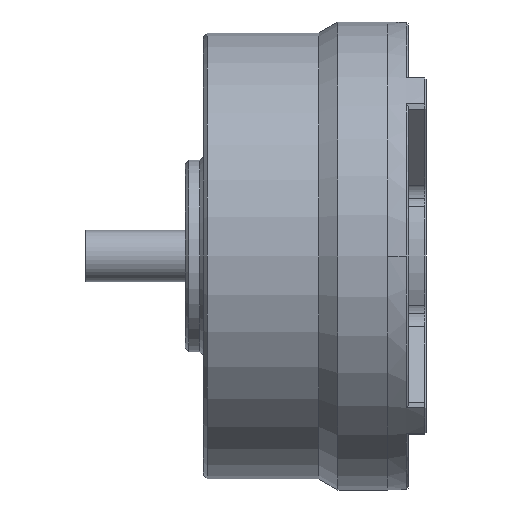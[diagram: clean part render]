
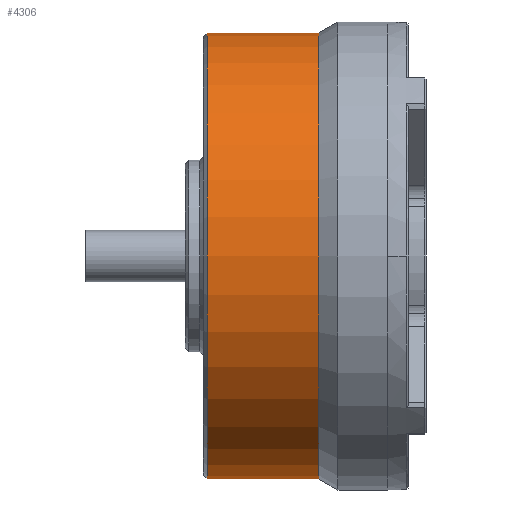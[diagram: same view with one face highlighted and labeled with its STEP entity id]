
A CAD part, left-side view. The second image highlights one B-rep face of the part: STEP entity #4306.
In plain terms, the highlighted cylindrical face has radius 60.5 mm (diameter 121 mm), a partial arc.
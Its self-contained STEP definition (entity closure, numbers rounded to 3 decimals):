
#90 = ORIENTED_EDGE ( 'NONE', *, *, #7712, .T. ) ;
#214 = CIRCLE ( 'NONE', #2661, 60.5 ) ;
#769 = VERTEX_POINT ( 'NONE', #10687 ) ;
#1068 = VERTEX_POINT ( 'NONE', #10384 ) ;
#1365 = VERTEX_POINT ( 'NONE', #8053 ) ;
#1691 = LINE ( 'NONE', #9191, #2762 ) ;
#1709 = VERTEX_POINT ( 'NONE', #7132 ) ;
#2596 = DIRECTION ( 'NONE',  ( 0., 0., -1. ) ) ;
#2661 = AXIS2_PLACEMENT_3D ( 'NONE', #9687, #6272, #9635 ) ;
#2762 = VECTOR ( 'NONE', #4979, 1000. ) ;
#2898 = EDGE_CURVE ( 'NONE', #1365, #769, #1691, .T. ) ;
#3076 = DIRECTION ( 'NONE',  ( 0., -1., 0. ) ) ;
#3104 = EDGE_CURVE ( 'NONE', #1709, #1068, #6371, .T. ) ;
#3429 = DIRECTION ( 'NONE',  ( 0., -1., 0. ) ) ;
#3529 = FACE_OUTER_BOUND ( 'NONE', #5914, .T. ) ;
#3643 = VECTOR ( 'NONE', #5413, 1000. ) ;
#3823 = CARTESIAN_POINT ( 'NONE',  ( 0., 0., -60.5 ) ) ;
#4306 = ADVANCED_FACE ( 'NONE', ( #3529 ), #7589, .T. ) ;
#4430 = CIRCLE ( 'NONE', #6386, 60.5 ) ;
#4718 = ORIENTED_EDGE ( 'NONE', *, *, #8096, .F. ) ;
#4979 = DIRECTION ( 'NONE',  ( 0., -1., 0. ) ) ;
#5413 = DIRECTION ( 'NONE',  ( 0., -1., 0. ) ) ;
#5914 = EDGE_LOOP ( 'NONE', ( #8441, #90, #7231, #4718 ) ) ;
#6272 = DIRECTION ( 'NONE',  ( 0., -1., 0. ) ) ;
#6336 = AXIS2_PLACEMENT_3D ( 'NONE', #6756, #3429, #2596 ) ;
#6371 = LINE ( 'NONE', #3823, #3643 ) ;
#6386 = AXIS2_PLACEMENT_3D ( 'NONE', #9670, #3076, #6462 ) ;
#6462 = DIRECTION ( 'NONE',  ( 0., 0., -1. ) ) ;
#6756 = CARTESIAN_POINT ( 'NONE',  ( 0., 0., 0. ) ) ;
#7132 = CARTESIAN_POINT ( 'NONE',  ( 0., 49., -60.5 ) ) ;
#7231 = ORIENTED_EDGE ( 'NONE', *, *, #3104, .T. ) ;
#7589 = CYLINDRICAL_SURFACE ( 'NONE', #6336, 60.5 ) ;
#7712 = EDGE_CURVE ( 'NONE', #1365, #1709, #214, .T. ) ;
#8053 = CARTESIAN_POINT ( 'NONE',  ( 0., 49., 60.5 ) ) ;
#8096 = EDGE_CURVE ( 'NONE', #769, #1068, #4430, .T. ) ;
#8441 = ORIENTED_EDGE ( 'NONE', *, *, #2898, .F. ) ;
#9191 = CARTESIAN_POINT ( 'NONE',  ( 0., 0., 60.5 ) ) ;
#9635 = DIRECTION ( 'NONE',  ( 0., 0., 1. ) ) ;
#9670 = CARTESIAN_POINT ( 'NONE',  ( 0., 18.696, 0. ) ) ;
#9687 = CARTESIAN_POINT ( 'NONE',  ( 0., 49., 0. ) ) ;
#10384 = CARTESIAN_POINT ( 'NONE',  ( 0., 18.696, -60.5 ) ) ;
#10687 = CARTESIAN_POINT ( 'NONE',  ( 0., 18.696, 60.5 ) ) ;
